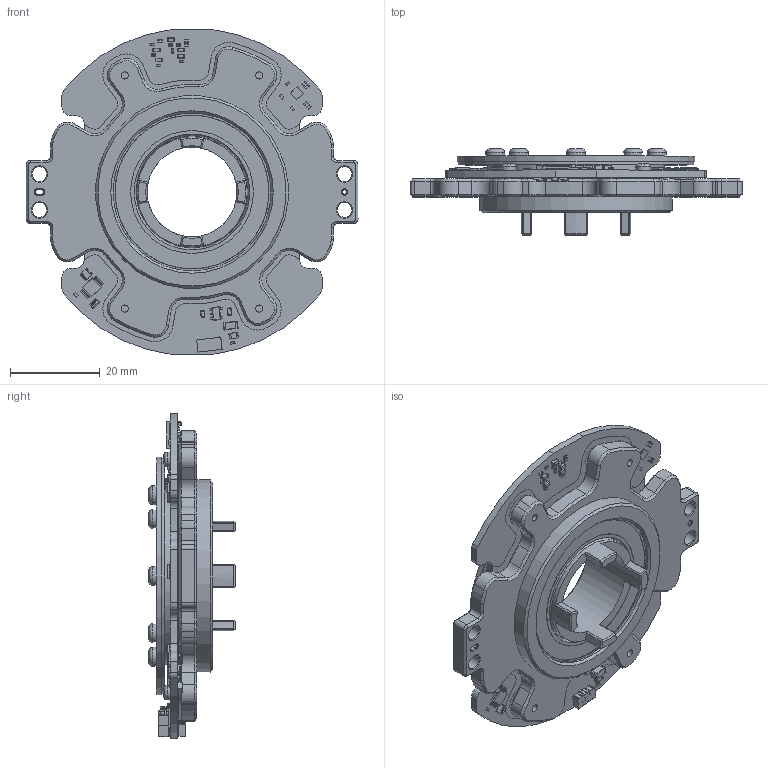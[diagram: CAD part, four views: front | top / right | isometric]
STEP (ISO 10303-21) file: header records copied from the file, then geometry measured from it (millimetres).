
FILE_DESCRIPTION(/* description */ (''),/* implementation_level */ '2;1');
FILE_NAME(/* name */ 'EAS-098 20260722.stp',/* time_stamp */ '2026-07-22T11:19:17+08:00',/* author */ (''),/* organization */ (''),/* preprocessor_version */ 'ST-DEVELOPER v20',/* originating_system */ 'SIEMENS PLM Software NX2312.1700',/* authorisation */ '');
FILE_SCHEMA (('AP203_CONFIGURATION_CONTROLLED_3D_DESIGN_OF_MECHANICAL_PARTS_AND_ASSEMBLIES_MIM_LF { 1 0 10303 403 2 1 2}'));
Products named in the file (1): EAS-098-3_objects
Bounding box: 74 x 19.2 x 72.4 mm (x, y, z)
Volume: 23657.4 mm3; surface area: 26468.1 mm2
Topology: 358 solids, 366 shells, 6351 faces, 15717 edges, 9990 vertices
Faces by surface type: plane 4703, cylinder 1172, sphere 276, cone 165, torus 31, bspline 4
Full cylindrical faces by diameter (mm): 1 x5, 1.6 x4, 2 x4, 2.05 x8, 2.2 x4, 2.5 x8, 2.7 x8, 3 x10, 3.3 x8, 4 x4, 4.2 x8, 20 x1, 24.5 x1, 25 x2, 27.4 x2, 30.03 x1, 30.04 x1, 30.1 x1, 34.3 x2, 35.2 x1, 37 x5, 39.5 x2, 40 x1, 40.2 x1, 40.5 x1, 43 x1, 52.5 x1, 53 x1
Entity records: 189443 total; most frequent: CARTESIAN_POINT 35597, ORIENTED_EDGE 30582, DIRECTION 30500, EDGE_CURVE 15291, LINE 12566, VECTOR 12566, VERTEX_POINT 9918, AXIS2_PLACEMENT_3D 8967
